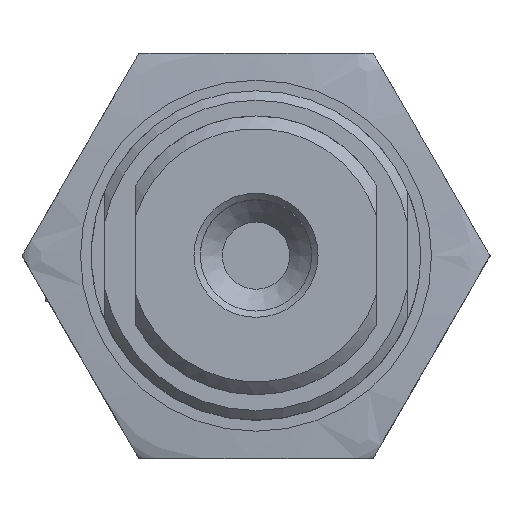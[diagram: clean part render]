
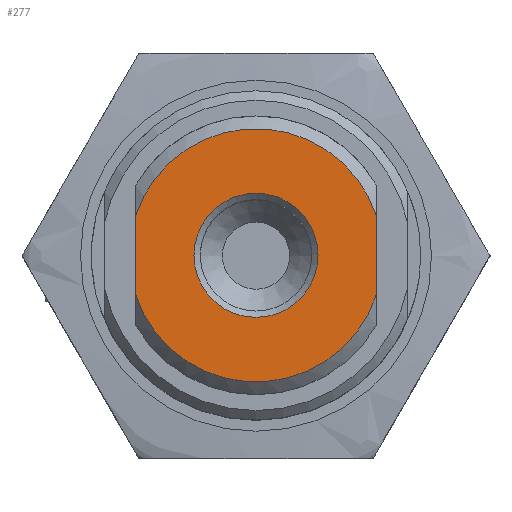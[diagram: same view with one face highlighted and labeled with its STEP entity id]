
A CAD part, top view. The second image highlights one B-rep face of the part: STEP entity #277.
In plain terms, the highlighted planar face has unit normal (0, 0, 1).
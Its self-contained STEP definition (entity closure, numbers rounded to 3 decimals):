
#277 = ADVANCED_FACE( '', ( #680, #681 ), #682, .F. );
#680 = FACE_OUTER_BOUND( '', #1310, .T. );
#681 = FACE_BOUND( '', #1311, .T. );
#682 = PLANE( '', #1312 );
#1310 = EDGE_LOOP( '', ( #2026, #2027, #2028, #2029 ) );
#1311 = EDGE_LOOP( '', ( #2030 ) );
#1312 = AXIS2_PLACEMENT_3D( '', #2031, #2032, #2033 );
#2026 = ORIENTED_EDGE( '', *, *, #3130, .F. );
#2027 = ORIENTED_EDGE( '', *, *, #3227, .F. );
#2028 = ORIENTED_EDGE( '', *, *, #3228, .F. );
#2029 = ORIENTED_EDGE( '', *, *, #3229, .F. );
#2030 = ORIENTED_EDGE( '', *, *, #3230, .F. );
#2031 = CARTESIAN_POINT( '', ( 3.5, 0., 68.4 ) );
#2032 = DIRECTION( '', ( 0., 0., -1. ) );
#2033 = DIRECTION( '', ( 0., -1., 0. ) );
#3130 = EDGE_CURVE( '', #3574, #3576, #3577, .T. );
#3227 = EDGE_CURVE( '', #3739, #3574, #3740, .T. );
#3228 = EDGE_CURVE( '', #3741, #3739, #3742, .T. );
#3229 = EDGE_CURVE( '', #3576, #3741, #3743, .T. );
#3230 = EDGE_CURVE( '', #3744, #3744, #3745, .T. );
#3574 = VERTEX_POINT( '', #4231 );
#3576 = VERTEX_POINT( '', #4236 );
#3577 = CIRCLE( '', #4237, 10. );
#3739 = VERTEX_POINT( '', #4676 );
#3740 = LINE( '', #4677, #4678 );
#3741 = VERTEX_POINT( '', #4679 );
#3742 = CIRCLE( '', #4680, 10. );
#3743 = LINE( '', #4681, #4682 );
#3744 = VERTEX_POINT( '', #4683 );
#3745 = CIRCLE( '', #4684, 4.9 );
#4231 = CARTESIAN_POINT( '', ( -16., 3.122, 68.4 ) );
#4236 = CARTESIAN_POINT( '', ( 3., 3.122, 68.4 ) );
#4237 = AXIS2_PLACEMENT_3D( '', #6042, #6043, #6044 );
#4676 = CARTESIAN_POINT( '', ( -16., -3.122, 68.4 ) );
#4677 = CARTESIAN_POINT( '', ( -16., -5.545, 68.4 ) );
#4678 = VECTOR( '', #6159, 1000. );
#4679 = CARTESIAN_POINT( '', ( 3., -3.122, 68.4 ) );
#4680 = AXIS2_PLACEMENT_3D( '', #6160, #6161, #6162 );
#4681 = CARTESIAN_POINT( '', ( 3., -5.545, 68.4 ) );
#4682 = VECTOR( '', #6163, 1000. );
#4683 = CARTESIAN_POINT( '', ( -1.6, 0., 68.4 ) );
#4684 = AXIS2_PLACEMENT_3D( '', #6164, #6165, #6166 );
#6042 = CARTESIAN_POINT( '', ( -6.5, 0., 68.4 ) );
#6043 = DIRECTION( '', ( 0., 0., -1. ) );
#6044 = DIRECTION( '', ( -1., 0., 0. ) );
#6159 = DIRECTION( '', ( 0., 1., 0. ) );
#6160 = CARTESIAN_POINT( '', ( -6.5, 0., 68.4 ) );
#6161 = DIRECTION( '', ( 0., 0., -1. ) );
#6162 = DIRECTION( '', ( -1., 0., 0. ) );
#6163 = DIRECTION( '', ( 0., -1., 0. ) );
#6164 = CARTESIAN_POINT( '', ( -6.5, 0., 68.4 ) );
#6165 = DIRECTION( '', ( 0., 0., 1. ) );
#6166 = DIRECTION( '', ( 1., 0., 0. ) );
